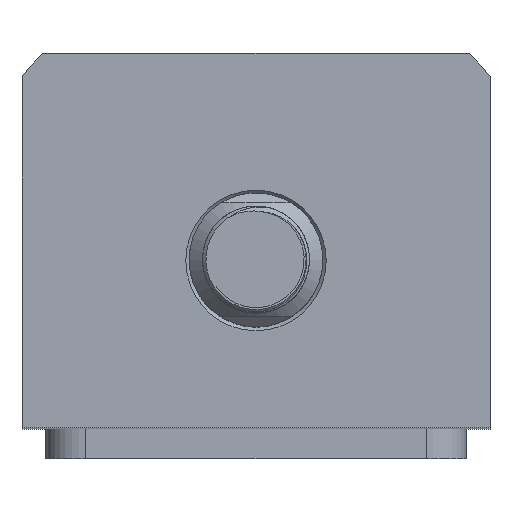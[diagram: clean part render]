
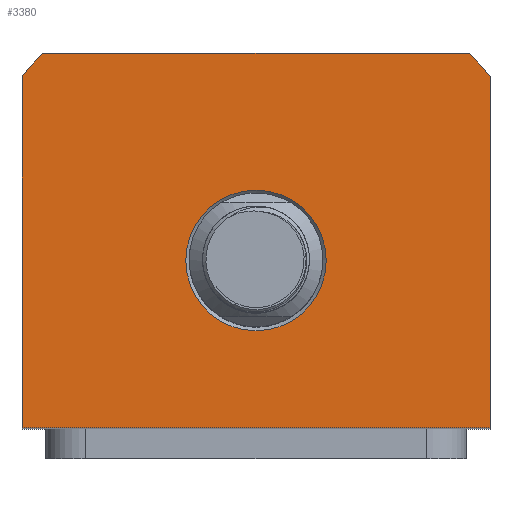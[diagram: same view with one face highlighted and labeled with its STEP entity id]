
A CAD part, top view. The second image highlights one B-rep face of the part: STEP entity #3380.
In plain terms, the highlighted planar face has unit normal (0, 0, 1).
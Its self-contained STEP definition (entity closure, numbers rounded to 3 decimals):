
#3380=ADVANCED_FACE('',(#4163,#4164),#3823,.T.);
#3823=PLANE('',#11874);
#4163=FACE_BOUND('',#4370,.T.);
#4164=FACE_BOUND('',#4371,.T.);
#4370=EDGE_LOOP('',(#6856));
#4371=EDGE_LOOP('',(#6857,#6858,#6859,#6860,#6861,#6862));
#4904=LINE('',#14218,#5746);
#4924=LINE('',#14856,#5766);
#4943=LINE('',#14919,#5785);
#4949=LINE('',#14934,#5791);
#5746=VECTOR('',#12302,1.);
#5766=VECTOR('',#12436,1.);
#5785=VECTOR('',#12495,1.);
#5791=VECTOR('',#12511,1.);
#6856=ORIENTED_EDGE('',*,*,#10349,.T.);
#6857=ORIENTED_EDGE('',*,*,#10444,.T.);
#6858=ORIENTED_EDGE('',*,*,#10348,.T.);
#6859=ORIENTED_EDGE('',*,*,#10450,.T.);
#6860=ORIENTED_EDGE('',*,*,#10476,.T.);
#6861=ORIENTED_EDGE('',*,*,#10458,.T.);
#6862=ORIENTED_EDGE('',*,*,#10485,.T.);
#9354=VERTEX_POINT('',#14188);
#9369=VERTEX_POINT('',#14217);
#9370=VERTEX_POINT('',#14221);
#9457=VERTEX_POINT('',#14852);
#9462=VERTEX_POINT('',#14867);
#9467=VERTEX_POINT('',#14880);
#9470=VERTEX_POINT('',#14885);
#10348=EDGE_CURVE('',#9354,#9369,#4904,.T.);
#10349=EDGE_CURVE('',#9370,#9370,#11677,.T.);
#10444=EDGE_CURVE('',#9457,#9354,#4924,.T.);
#10450=EDGE_CURVE('',#9369,#9462,#11713,.T.);
#10458=EDGE_CURVE('',#9467,#9470,#11717,.T.);
#10476=EDGE_CURVE('',#9462,#9467,#4943,.T.);
#10485=EDGE_CURVE('',#9470,#9457,#4949,.T.);
#11677=CIRCLE('',#11792,10.5);
#11713=CIRCLE('',#11853,44.5);
#11717=CIRCLE('',#11859,44.5);
#11792=AXIS2_PLACEMENT_3D('',#14220,#12305,#12306);
#11853=AXIS2_PLACEMENT_3D('',#14868,#12449,#12450);
#11859=AXIS2_PLACEMENT_3D('',#14886,#12465,#12466);
#11874=AXIS2_PLACEMENT_3D('',#14947,#12521,#12522);
#12302=DIRECTION('',(0.,1.,0.));
#12305=DIRECTION('',(0.,0.,-1.));
#12306=DIRECTION('',(1.,0.,0.));
#12436=DIRECTION('',(1.,0.,0.));
#12449=DIRECTION('',(0.,0.,1.));
#12450=DIRECTION('',(1.,0.,0.));
#12465=DIRECTION('',(0.,0.,1.));
#12466=DIRECTION('',(1.,0.,0.));
#12495=DIRECTION('',(-1.,0.,0.));
#12511=DIRECTION('',(0.,-1.,0.));
#12521=DIRECTION('',(0.,0.,1.));
#12522=DIRECTION('',(-1.,0.,0.));
#14188=CARTESIAN_POINT('',(35.,-25.,59.5));
#14217=CARTESIAN_POINT('',(35.,27.482,59.5));
#14218=CARTESIAN_POINT('',(35.,27.482,59.5));
#14220=CARTESIAN_POINT('',(0.,0.,59.5));
#14221=CARTESIAN_POINT('',(10.5,0.,59.5));
#14852=CARTESIAN_POINT('',(-35.,-25.,59.5));
#14856=CARTESIAN_POINT('',(35.,-25.,59.5));
#14867=CARTESIAN_POINT('',(31.926,31.,59.5));
#14868=CARTESIAN_POINT('',(0.,0.,59.5));
#14880=CARTESIAN_POINT('',(-31.926,31.,59.5));
#14885=CARTESIAN_POINT('',(-35.,27.482,59.5));
#14886=CARTESIAN_POINT('',(0.,0.,59.5));
#14919=CARTESIAN_POINT('',(-31.926,31.,59.5));
#14934=CARTESIAN_POINT('',(-35.,-25.,59.5));
#14947=CARTESIAN_POINT('',(0.,0.,59.5));
